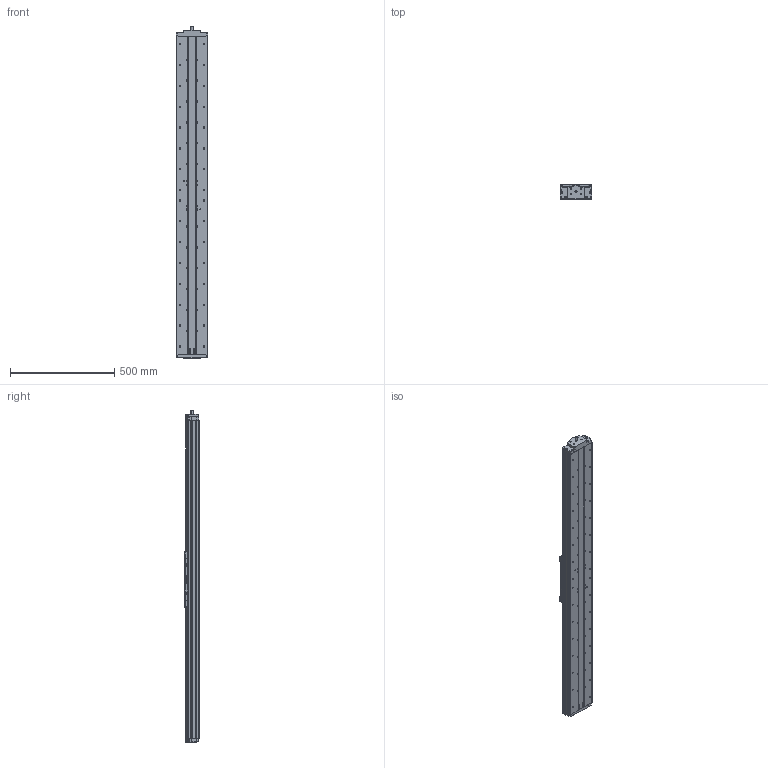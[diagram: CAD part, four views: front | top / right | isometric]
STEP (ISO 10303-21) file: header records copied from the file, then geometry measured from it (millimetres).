
FILE_DESCRIPTION((''),'2;1');
FILE_NAME('406XR-11_ASM','2002-07-12T',('FKrakosh'),(''),'PRO/ENGINEER BY PARAMETRIC TECHNOLOGY CORPORATION, 2000420','PRO/ENGINEER BY PARAMETRIC TECHNOLOGY CORPORATION, 2000420','');
FILE_SCHEMA(('CONFIG_CONTROL_DESIGN'));
Length unit declared in the file: millimetre
Products named in the file (8): 406XR-BASE-11; 406XR-REAR-END-BLK; 406XR-CARRIAGE; 10853610-01; 406XR-FEB-10MM; 10426110; 30321911; 406XR-11_ASM
Assembly tree (8 placements, depth 2):
  406XR-11_ASM
    406XR-BASE-11
    406XR-REAR-END-BLK
    406XR-CARRIAGE
    10853610-01  x2
    406XR-FEB-10MM
    10426110
    30321911
Bounding box: 150 x 69.9 x 1592.73 mm (x, y, z)
Volume: 13376889 mm3; surface area: 951173.2 mm2
Topology: 8 solids, 78 shells, 1044 faces, 2564 edges, 1724 vertices
Faces by surface type: cylinder 558, plane 456, bspline 16, sphere 12, cone 2
Entity records: 29696 total; most frequent: CARTESIAN_POINT 6228, DIRECTION 5238, ORIENTED_EDGE 4342, EDGE_CURVE 2307, AXIS2_PLACEMENT_3D 2061, VERTEX_POINT 1567, EDGE_LOOP 1190, VECTOR 1116
